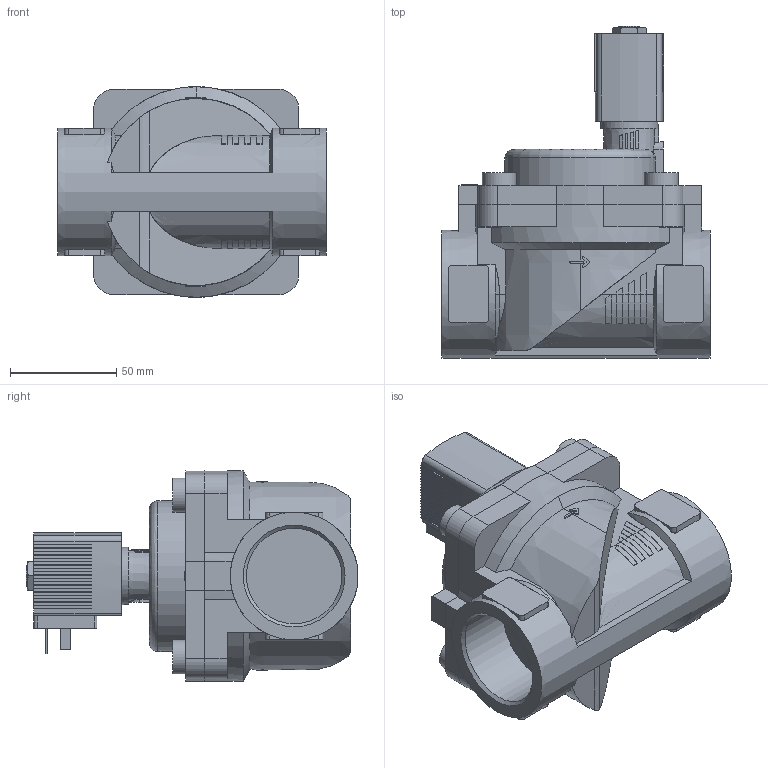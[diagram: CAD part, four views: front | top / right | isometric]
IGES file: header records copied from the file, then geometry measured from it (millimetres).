
Start section: Data from Parasolid IGES Translator 26.0.171, Copyright(c) 2006 Siemens PLM Software. All Rights Reserved.
Global section: file name: 6281-247946-2_2-Way_Solenoid_Valve__Servo-assisted__General_Purpose.igs; native system: By Siemens PLM Incorporated; preprocessor: XPlus GENERIC/IGES 26.0.171; author: Noname; organization: Noname; date: 20240904.153801; units: millimetre
Bounding box: 126 x 156 x 99 mm (x, y, z)
Surface area: 93459.7 mm2 (no closed solid volume)
Topology: 0 solids, 0 shells, 573 faces, 3222 edges, 3214 vertices
Faces by surface type: extrusion 443, revolution 130
